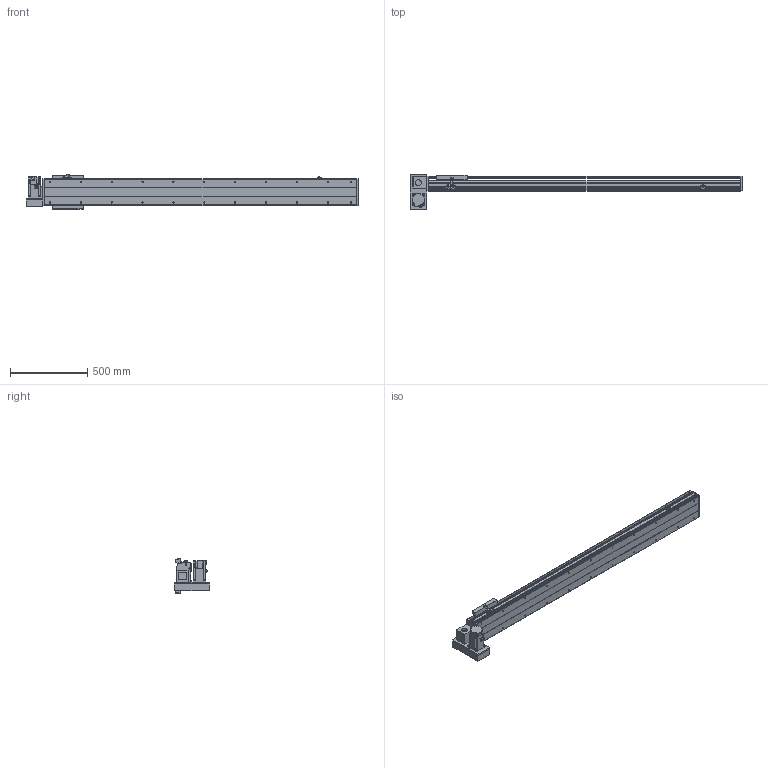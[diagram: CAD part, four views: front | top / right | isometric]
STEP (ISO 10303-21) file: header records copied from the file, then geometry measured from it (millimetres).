
FILE_DESCRIPTION(/* description */ ('STEP AP214'),/* implementation_level */ '2;1');
FILE_NAME(/* name */ 'PBS200-P40-S1650-LD-T75-C1-N(0)',/* time_stamp */ '2022-06-11T08:45:14+02:00',/* author */ ('License CC BY-ND 4.0'),/* organization */ ('CADENAS'),/* preprocessor_version */ 'ST-DEVELOPER v18.102',/* originating_system */ 'PARTsolutions',/* authorisation */ ' ');
FILE_SCHEMA (('AUTOMOTIVE_DESIGN {1 0 10303 214 3 1 1}'));
Length unit declared in the file: millimetre
Products named in the file (7): PBS200-P40-S1650-LD-T75-C1-N(0); PBS200_sensor; PBS200_plant; PBS200_sliser; T75-p1; PBS200T-LD_motors; PBS200-S1650()_body
Assembly tree (8 placements, depth 2):
  PBS200-P40-S1650-LD-T75-C1-N(0)
    PBS200_sensor  x3
    PBS200_plant
    PBS200_sliser
    T75-p1
    PBS200T-LD_motors
    PBS200-S1650()_body
Bounding box: 2150 x 230 x 221 mm (x, y, z)
Volume: 15296282.8 mm3; surface area: 2459424.6 mm2
Topology: 8 solids, 8 shells, 938 faces, 2404 edges, 1566 vertices
Faces by surface type: plane 580, cylinder 304, cone 54
Full cylindrical faces by diameter (mm): 2.459 x6, 3.242 x4, 4.5 x6, 4.917 x4, 5 x6, 6 x7, 6.6 x8, 6.647 x26, 8 x6, 10 x4, 12 x8, 38 x2, 40 x1, 70 x1
Entity records: 24941 total; most frequent: DIRECTION 4399, CARTESIAN_POINT 4246, ORIENTED_EDGE 4018, EDGE_CURVE 2009, AXIS2_PLACEMENT_3D 1543, VERTEX_POINT 1390, LINE 1313, VECTOR 1313
